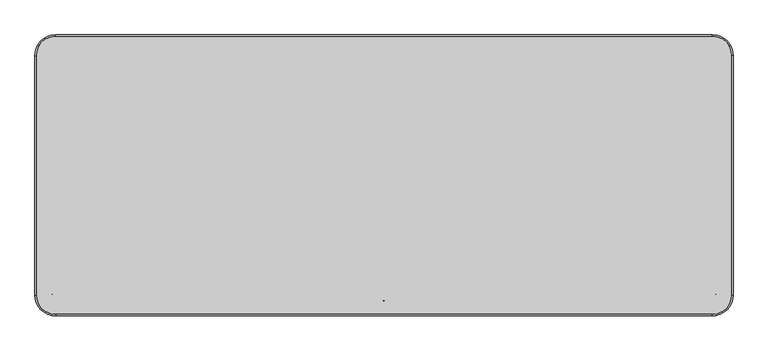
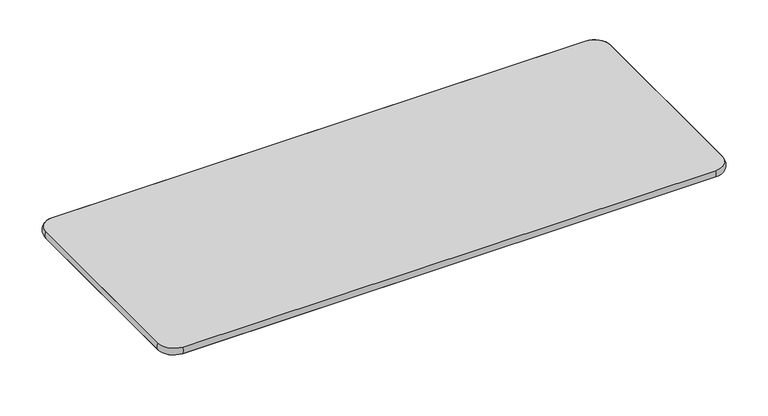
"""IFC4 building model written with IfcOpenShell, lengths in millimetres: furniture geometry, Mesa para refeitório : Mesa para refeitório 150x60cm cód 70471.4."""

import ifcopenshell
import ifcopenshell.guid

model = None  # the IFC model being written
_history = None  # IfcOwnerHistory: only IFC2X3 demands one
_inside = {}  # id of a spatial element -> (the spatial element, [elements in it])
_under = {}  # id of a project, library or spatial element -> (it, [spatial elements below it])
_declared = {}  # id of a project -> (the project, [libraries it declares])
_typed = {}  # id of a type object -> (the type object, [elements of that type])
_made_of = {}  # id of a material, layer set ... -> (it, [elements and type objects made of it])


def new_model(schema):
    """Start an empty IFC model of exactly this schema.

    Asked for "IFC4X3", IfcOpenShell would pick the latest addendum, in which some entities
    have other attributes; the version numbers below select the first issue.
    IFC2X3 requires an IfcOwnerHistory on every rooted entity: one is made here for all.
    """
    global model, _history
    if schema == "IFC4X3":
        model = ifcopenshell.file(schema_version=(4, 3, 0, 0))
    else:
        model = ifcopenshell.file(schema=schema)
    _inside.clear()
    _under.clear()
    _declared.clear()
    _typed.clear()
    _made_of.clear()
    _history = None
    if model.schema == "IFC2X3":
        org = make("IfcOrganization", Name="unknown")
        user = make(
            "IfcPersonAndOrganization",
            ThePerson=make("IfcPerson", FamilyName="unknown"),
            TheOrganization=org,
        )
        app = make(
            "IfcApplication",
            ApplicationDeveloper=org,
            Version="unknown",
            ApplicationFullName="unknown",
            ApplicationIdentifier="unknown",
        )
        _history = make(
            "IfcOwnerHistory",
            OwningUser=user,
            OwningApplication=app,
            ChangeAction="ADDED",
            CreationDate=0,
        )
    return model


def make(cls, **values):
    """One entity of the class cls with the attributes given. An attribute that is None is left unset."""
    return model.create_entity(
        cls, **{name: value for name, value in values.items() if value is not None}
    )


def rooted(cls, **values):
    """An entity with a GlobalId (a new one), such as an element, a storey or a relation."""
    return make(cls, GlobalId=ifcopenshell.guid.new(), OwnerHistory=_history, **values)


def si_unit(unit_type, name, prefix=None):
    """IfcSIUnit, for example si_unit("LENGTHUNIT", "METRE", prefix="MILLI")."""
    return make("IfcSIUnit", UnitType=unit_type, Prefix=prefix, Name=name)


def assignment(units):
    """IfcUnitAssignment: the units of a project."""
    return None if units is None else make("IfcUnitAssignment", Units=units)


def point(xyz):
    """IfcCartesianPoint."""
    return None if xyz is None else make("IfcCartesianPoint", Coordinates=xyz)


def direction(xyz):
    """IfcDirection."""
    return None if xyz is None else make("IfcDirection", DirectionRatios=xyz)


def frame(location, z_axis=None, x_axis=None):
    """IfcAxis2Placement3D, a coordinate frame: its origin and axes. An axis left out is left unset."""
    return make(
        "IfcAxis2Placement3D",
        Location=point(location),
        Axis=direction(z_axis),
        RefDirection=direction(x_axis),
    )


def frame_2d(location, x_axis=None):
    """IfcAxis2Placement2D, a coordinate frame in the plane: its origin and x axis."""
    return make(
        "IfcAxis2Placement2D", Location=point(location), RefDirection=direction(x_axis)
    )


def origin():
    """The frame at (0, 0, 0) with its axes left unset."""
    return frame((0.0, 0.0, 0.0))


def place(relative_to, where):
    """IfcLocalPlacement: puts the frame where relative to a parent placement (None: the world)."""
    return make(
        "IfcLocalPlacement", PlacementRelTo=relative_to, RelativePlacement=where
    )


def context(
    kind, dimensions, precision=None, world=None, true_north=None, identifier=None
):
    """IfcGeometricRepresentationContext, for example the 3D "Model" context."""
    return make(
        "IfcGeometricRepresentationContext",
        ContextIdentifier=identifier,
        ContextType=kind,
        CoordinateSpaceDimension=dimensions,
        Precision=precision,
        WorldCoordinateSystem=world,
        TrueNorth=true_north,
    )


def project(units=None, contexts=None):
    """IfcProject with its units and contexts."""
    return rooted(
        "IfcProject",
        Name="project",
        RepresentationContexts=contexts,
        UnitsInContext=assignment(units),
    )


def spatial(cls, under=None, at=None, **own):
    """A site, building, storey or space (cls), placed at a placement, below another one or the project."""
    s = rooted(cls, ObjectPlacement=at, **own)
    if under is not None:
        _under.setdefault(under.id(), (under, []))[1].append(s)
    return s


def polyline(points):
    """IfcPolyline through the points."""
    return make("IfcPolyline", Points=[point(p) for p in points])


def circle_curve(where, radius):
    """IfcCircle in the frame where."""
    return make("IfcCircle", Position=where, Radius=radius)


def ellipse_curve(where, semi_axis1, semi_axis2):
    """IfcEllipse in the frame where."""
    return make(
        "IfcEllipse", Position=where, SemiAxis1=semi_axis1, SemiAxis2=semi_axis2
    )


def trimmed(basis, trim1, trim2, sense, master):
    """IfcTrimmedCurve: the piece of a basis curve between two trims."""
    return make(
        "IfcTrimmedCurve",
        BasisCurve=basis,
        Trim1=trim1,
        Trim2=trim2,
        SenseAgreement=sense,
        MasterRepresentation=master,
    )


def segment(curve, same_sense, transition):
    """IfcCompositeCurveSegment."""
    return make(
        "IfcCompositeCurveSegment",
        Transition=transition,
        SameSense=same_sense,
        ParentCurve=curve,
    )


def composite_curve(segments, self_intersect=None):
    """IfcCompositeCurve: segments joined end to end."""
    return make("IfcCompositeCurve", Segments=segments, SelfIntersect=self_intersect)


def outline(outer, holes=None, kind="AREA"):
    """IfcArbitraryClosedProfileDef: a profile drawn as a closed curve; with holes, ...WithVoids."""
    if holes is None:
        return make("IfcArbitraryClosedProfileDef", ProfileType=kind, OuterCurve=outer)
    return make(
        "IfcArbitraryProfileDefWithVoids",
        ProfileType=kind,
        OuterCurve=outer,
        InnerCurves=holes,
    )


def extrude(swept, where, along, depth):
    """IfcExtrudedAreaSolid: the profile swept, set in the frame where, extruded along a direction by depth."""
    return make(
        "IfcExtrudedAreaSolid",
        SweptArea=swept,
        Position=where,
        ExtrudedDirection=direction(along),
        Depth=depth,
    )


def shape(context_of_items, identifier, shape_type, items):
    """IfcShapeRepresentation: the items that make up one representation, for example the "Body"."""
    return make(
        "IfcShapeRepresentation",
        ContextOfItems=context_of_items,
        RepresentationIdentifier=identifier,
        RepresentationType=shape_type,
        Items=items,
    )


def source(mapping_origin, context_of_items, identifier, shape_type, items):
    """IfcRepresentationMap: a shape defined once, which mapped items show again and again."""
    return make(
        "IfcRepresentationMap",
        MappingOrigin=mapping_origin,
        MappedRepresentation=shape(context_of_items, identifier, shape_type, items),
    )


def transform(
    local_origin,
    x_axis=None,
    y_axis=None,
    z_axis=None,
    scale=None,
    scale2=None,
    scale3=None,
    uniform=True,
):
    """IfcCartesianTransformationOperator3D, or its non-uniform kind. x_axis, y_axis, z_axis: its Axis1, 2, 3."""
    if uniform:
        return make(
            "IfcCartesianTransformationOperator3D",
            Axis1=direction(x_axis),
            Axis2=direction(y_axis),
            LocalOrigin=point(local_origin),
            Scale=scale,
            Axis3=direction(z_axis),
        )
    return make(
        "IfcCartesianTransformationOperator3DnonUniform",
        Axis1=direction(x_axis),
        Axis2=direction(y_axis),
        LocalOrigin=point(local_origin),
        Scale=scale,
        Axis3=direction(z_axis),
        Scale2=scale2,
        Scale3=scale3,
    )


def mapped(mapping_source, mapping_target):
    """IfcMappedItem: shows the shape of a source again, moved by a transform."""
    return make(
        "IfcMappedItem", MappingSource=mapping_source, MappingTarget=mapping_target
    )


def made_of(thing, what):
    """Note that an element or type object is made of a material, layer set ...; save() writes the relation."""
    if what is not None:
        _made_of.setdefault(what.id(), (what, []))[1].append(thing)
    return thing


def element(
    cls,
    number,
    at=None,
    inside=None,
    cuts=None,
    type_object=None,
    material=None,
    context=None,
    identifier="Body",
    shape_type=None,
    held_by="IfcProductDefinitionShape",
    body=None,
    shapes=None,
    **own,
):
    """One element of the class cls, such as IfcWall. Its Tag is "e" and its number.

    at: its placement. inside: the storey or other place that contains it. cuts: it is an
    opening in that element (IfcRelVoidsElement). A single representation is given by context,
    identifier, shape_type and body (its items); several are given by shapes. held_by: the class
    of the entity that holds the representations. save() writes the other relations.
    """
    e = rooted(cls, Tag="e%d" % number, ObjectPlacement=at, **own)
    if body is not None:
        shapes = [shape(context, identifier, shape_type, body)]
    if shapes is not None:
        e.Representation = make(held_by, Representations=shapes)
    if inside is not None:
        _inside.setdefault(inside.id(), (inside, []))[1].append(e)
    if cuts is not None:
        rooted(
            "IfcRelVoidsElement", RelatingBuildingElement=cuts, RelatedOpeningElement=e
        )
    if type_object is not None:
        _typed.setdefault(type_object.id(), (type_object, []))[1].append(e)
    return made_of(e, material)


def aggregate(whole, parts):
    """IfcRelAggregates: a whole, such as a stair, and the parts it consists of."""
    return rooted("IfcRelAggregates", RelatingObject=whole, RelatedObjects=parts)


def save(model, path):
    """Write the relations noted so far, then the file.

    IfcRelAggregates (storeys below a building ...), IfcRelContainedInSpatialStructure (elements
    in a storey), IfcRelDefinesByType, IfcRelAssociatesMaterial and IfcRelDeclares: one each for
    every whole, place, type object, material and project.
    """
    for whole, parts in _under.values():
        aggregate(whole, parts)
    for where, things in _inside.values():
        rooted(
            "IfcRelContainedInSpatialStructure",
            RelatedElements=things,
            RelatingStructure=where,
        )
    for kind, things in _typed.values():
        rooted("IfcRelDefinesByType", RelatedObjects=things, RelatingType=kind)
    for what, things in _made_of.values():
        rooted("IfcRelAssociatesMaterial", RelatedObjects=things, RelatingMaterial=what)
    for by, libraries in _declared.values():
        rooted("IfcRelDeclares", RelatingContext=by, RelatedDefinitions=libraries)
    model.write(path)


def plane_surface(at):
    """IfcPlane: the flat surface through the origin of the frame at, square to its z axis."""
    return make("IfcPlane", Position=at)


def cylinder_surface(at, radius):
    """IfcCylindricalSurface: all points at the distance radius from the z axis of the frame at."""
    return make("IfcCylindricalSurface", Position=at, Radius=radius)


def revolved_surface(curve, axis_point, axis_direction):
    """IfcSurfaceOfRevolution: the curve turned about the line through axis_point along axis_direction."""
    return make(
        "IfcSurfaceOfRevolution",
        SweptCurve=make("IfcArbitraryOpenProfileDef", ProfileType="CURVE", Curve=curve),
        AxisPosition=make("IfcAxis1Placement", Location=point(axis_point), Axis=direction(axis_direction)),
    )


def advanced_brep(points, edges, surfaces, faces):
    """IfcAdvancedBrep: a solid bounded by faces that lie on surfaces and meet in shared edges.

    An edge is (start, end): straight between two places in points (the first is 0);
    or (start, end, curve); or (start, end, curve, False) where it runs against its curve.
    A face is (place in surfaces, loops), or (place, loops, False) where it looks against
    its surface's normal. A loop lists edges by number (the first is 1), with a minus sign
    where the edge is run from its end to its start. The first loop is the outer one.
    """
    corners = [point(p) for p in points]
    vertices = [make("IfcVertexPoint", VertexGeometry=c) for c in corners]
    made = []
    for start, end, *more in edges:
        made.append(
            make(
                "IfcEdgeCurve",
                EdgeStart=vertices[start],
                EdgeEnd=vertices[end],
                EdgeGeometry=more[0] if more else make("IfcPolyline", Points=[corners[start], corners[end]]),
                SameSense=more[1] if len(more) > 1 else True,
            )
        )
    hull = []
    for where, loops, *sense in faces:
        bounds = []
        for j, loop in enumerate(loops):
            ring = [make("IfcOrientedEdge", EdgeElement=made[abs(k) - 1], Orientation=k > 0) for k in loop]
            bounds.append(
                make(
                    "IfcFaceOuterBound" if j == 0 else "IfcFaceBound",
                    Bound=make("IfcEdgeLoop", EdgeList=ring),
                    Orientation=True,
                )
            )
        hull.append(make("IfcAdvancedFace", Bounds=bounds, FaceSurface=surfaces[where], SameSense=sense[0] if sense else True))
    return make("IfcAdvancedBrep", Outer=make("IfcClosedShell", CfsFaces=hull))


def furniture_99233190(model_context):
    return source(origin(), model_context, "Body", "SolidModel", [
        extrude(outline(composite_curve([segment(polyline([(-655.6618953, -42.5875081), (-717.0206397, -256.5708799), (-729.5170418, -252.9875943)]), True, "CONTINUOUS"), segment(trimmed(circle_curve(frame_2d((-728.138855, -248.1812858)), 5.0), [point((-729.5170418, -252.9875943))], [point((-732.9451635, -246.803099))], False, "CARTESIAN"), True, "CONTINUOUS"), segment(polyline([(-732.9451635, -246.803099), (-674.3872851, -42.5875081), (-655.6618953, -42.5875081)]), True, "CONTINUOUS")], self_intersect=False)), frame((0.0, 0.0, 620.0), z_axis=(0.0, 0.0, 1.0), x_axis=(1.0, 0.0, 0.0)), (0.0, 0.0, 1.0), 2.0),
        extrude(outline(composite_curve([segment(polyline([(655.6618953, 42.5875081), (717.0206397, 256.5708799), (729.5170418, 252.9875943)]), True, "CONTINUOUS"), segment(trimmed(circle_curve(frame_2d((728.138855, 248.1812858)), 5.0), [point((729.5170418, 252.9875943))], [point((732.9451635, 246.803099))], False, "CARTESIAN"), True, "CONTINUOUS"), segment(polyline([(732.9451635, 246.803099), (674.3872851, 42.5875081), (655.6618953, 42.5875081)]), True, "CONTINUOUS")], self_intersect=False)), frame((0.0, 0.0, 620.0), z_axis=(0.0, 0.0, 1.0), x_axis=(1.0, 0.0, 0.0)), (0.0, 0.0, 1.0), 2.0),
        extrude(outline(composite_curve([segment(polyline([(655.6618953, -42.5875081), (674.3872851, -42.5875081), (732.9451635, -246.803099)]), True, "CONTINUOUS"), segment(trimmed(circle_curve(frame_2d((728.138855, -248.1812858)), 5.0), [point((732.9451635, -246.803099))], [point((729.5170418, -252.9875943))], False, "CARTESIAN"), True, "CONTINUOUS"), segment(polyline([(729.5170418, -252.9875943), (717.0206397, -256.5708799), (655.6618953, -42.5875081)]), True, "CONTINUOUS")], self_intersect=False)), frame((0.0, 0.0, 620.0), z_axis=(0.0, 0.0, 1.0), x_axis=(1.0, 0.0, 0.0)), (0.0, 0.0, 1.0), 2.0),
        extrude(outline(composite_curve([segment(polyline([(655.6618953, -42.5875081), (673.7270534, -42.5875081), (673.7270534, -140.8530223)]), True, "CONTINUOUS"), segment(trimmed(circle_curve(frame_2d((668.7270534, -140.8530223)), 5.0), [point((673.7270534, -140.8530223))], [point((668.7270534, -145.8530223))], False, "CARTESIAN"), True, "CONTINUOUS"), segment(polyline([(668.7270534, -145.8530223), (655.6618953, -145.8530223), (655.6618953, -42.5875081)]), True, "CONTINUOUS")], self_intersect=False)), frame((0.0, 0.0, 620.0), z_axis=(0.0, 0.0, 1.0), x_axis=(1.0, 0.0, 0.0)), (0.0, 0.0, 1.0), 2.0),
        extrude(outline(polyline([(-649.6955742, 28.681337), (-649.6955742, -28.681337), (-651.5529394, -28.1300623), (-651.5529394, 28.1300623), (-649.6955742, 28.681337)])), frame((0.0, 0.0, 562.0), z_axis=(0.0, 0.0, 1.0), x_axis=(1.0, 0.0, 0.0)), (0.0, 0.0, 1.0), 60.0),
        extrude(outline(composite_curve([segment(polyline([(-60.1181829, 0.0), (0.0, 0.0), (0.0, -229.4943371)]), True, "CONTINUOUS"), segment(trimmed(circle_curve(frame_2d((-8.0489664, -229.4943371)), 8.0489664), [point((0.0, -229.4943371))], [point((-15.3438074, -232.8959773))], False, "CARTESIAN"), True, "CONTINUOUS"), segment(polyline([(-15.3438074, -232.8959773), (-60.1181829, 0.0)]), True, "CONTINUOUS")], self_intersect=False)), frame((-649.6955742, -28.681337, 622.0), z_axis=(-0.961261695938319, 0.2756373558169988, 0.0), x_axis=(0.0, 0.0, 1.0)), (0.0, 0.0, 1.0), 1.932216),
        extrude(outline(composite_curve([segment(polyline([(60.1181829, 0.0), (15.3438074, -232.8959773)]), True, "CONTINUOUS"), segment(trimmed(circle_curve(frame_2d((8.0489664, -229.4943371)), 8.0489664), [point((15.3438074, -232.8959773))], [point((0.0, -229.4943371))], False, "CARTESIAN"), True, "CONTINUOUS"), segment(polyline([(0.0, -229.4943371), (0.0, 0.0), (60.1181829, 0.0)]), True, "CONTINUOUS")], self_intersect=False)), frame((651.5162894, 28.1300623, 622.0), z_axis=(-0.961261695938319, 0.2756373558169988, 0.0), x_axis=(0.0, 0.0, -1.0)), (0.0, 0.0, 1.0), 2.0),
        extrude(outline(polyline([(649.593766, 28.681337), (651.5162894, 28.1300623), (651.5162894, -28.1300623), (649.593766, -28.681337), (649.593766, 28.681337)])), frame((0.0, 0.0, 562.0), z_axis=(0.0, 0.0, 1.0), x_axis=(1.0, 0.0, 0.0)), (0.0, 0.0, 1.0), 60.0),
        extrude(outline(composite_curve([segment(polyline([(-2.0, -20.0), (-2.0, -266.247878), (-15.0, -266.247878)]), True, "CONTINUOUS"), segment(trimmed(circle_curve(frame_2d((-15.0, -261.247878)), 5.0), [point((-15.0, -266.247878))], [point((-20.0, -261.247878))], False, "CARTESIAN"), True, "CONTINUOUS"), segment(polyline([(-20.0, -261.247878), (-20.0, -20.0), (-2.0, -20.0)]), True, "CONTINUOUS")], self_intersect=False)), frame((0.0, 0.0, 620.0), z_axis=(0.0, 0.0, 1.0), x_axis=(1.0, 0.0, 0.0)), (0.0, 0.0, 1.0), 2.0),
        extrude(outline(composite_curve([segment(polyline([(-20.0, 563.2373612), (-266.247878, 606.6561926)]), True, "CONTINUOUS"), segment(trimmed(circle_curve(frame_2d((-262.8462378, 613.9510336)), 8.0489664), [point((-266.247878, 606.6561926))], [point((-262.8462378, 622.0))], False, "CARTESIAN"), True, "CONTINUOUS"), segment(polyline([(-262.8462378, 622.0), (-20.0, 622.0), (-20.0, 563.2373612)]), True, "CONTINUOUS")], self_intersect=False)), frame((-2.0, 0.0, 0.0), z_axis=(1.0, 0.0, 0.0), x_axis=(0.0, 1.0, 0.0)), (0.0, 0.0, 1.0), 2.0),
        extrude(outline(composite_curve([segment(polyline([(0.0, 0.0), (237.1608757, 0.0)]), True, "CONTINUOUS"), segment(trimmed(circle_curve(frame_2d((235.1976245, -7.8058636)), 8.0489664), [point((237.1608757, 0.0))], [point((236.7172151, -15.7100843))], False, "CARTESIAN"), True, "CONTINUOUS"), segment(polyline([(236.7172151, -15.7100843), (11.3499079, -59.0370689), (0.0, 0.0)]), True, "CONTINUOUS")], self_intersect=False)), frame((649.593766, -28.681337, 561.8818171), z_axis=(0.961261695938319, 0.2756373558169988, 0.0), x_axis=(0.27068052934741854, -0.9439751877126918, 0.1887932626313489)), (0.0, 0.0, 1.0), 2.0),
        extrude(outline(composite_curve([segment(polyline([(-2.0, 20.0), (-20.0, 20.0), (-20.0, 261.247878)]), True, "CONTINUOUS"), segment(trimmed(circle_curve(frame_2d((-15.0, 261.247878)), 5.0), [point((-20.0, 261.247878))], [point((-15.0, 266.247878))], False, "CARTESIAN"), True, "CONTINUOUS"), segment(polyline([(-15.0, 266.247878), (-2.0, 266.247878), (-2.0, 20.0)]), True, "CONTINUOUS")], self_intersect=False)), frame((0.0, 0.0, 620.0), z_axis=(0.0, 0.0, 1.0), x_axis=(1.0, 0.0, 0.0)), (0.0, 0.0, 1.0), 2.0),
        extrude(outline(composite_curve([segment(polyline([(20.0, 563.2373612), (20.0, 622.0), (262.8462378, 622.0)]), True, "CONTINUOUS"), segment(trimmed(circle_curve(frame_2d((262.8462378, 613.9510336)), 8.0489664), [point((262.8462378, 622.0))], [point((266.247878, 606.6561926))], False, "CARTESIAN"), True, "CONTINUOUS"), segment(polyline([(266.247878, 606.6561926), (20.0, 563.2373612)]), True, "CONTINUOUS")], self_intersect=False)), frame((-2.0, 0.0, 0.0), z_axis=(1.0, 0.0, 0.0), x_axis=(0.0, 1.0, 0.0)), (0.0, 0.0, 1.0), 2.0),
        extrude(outline(polyline([(650.0651581, -20.0), (-650.0651581, -20.0), (-650.0651581, 20.0), (650.0651581, 20.0), (650.0651581, -20.0)])), frame((0.0, 0.0, 562.0), z_axis=(0.0, 0.0, 1.0), x_axis=(1.0, 0.0, 0.0)), (0.0, 0.0, 1.0), 60.0),
        advanced_brep(
        [(750.0, -258.1259063, 640.0), (708.1259063, -300.0, 640.0), (708.1259063, -300.0, 622.0), (750.0, -258.1259063, 622.0), (750.0, 258.1259063, 622.0), (750.0, 258.1259063, 640.0), (708.1259063, 300.0, 640.0), (708.1259063, 300.0, 622.0), (-708.2277145, 300.0, 622.0), (-708.2277145, 300.0, 640.0), (-750.0, 258.2277145, 640.0), (-750.0, 258.2277145, 622.0), (-750.0, -258.2277145, 622.0), (-750.0, -258.2277145, 640.0), (-708.2277145, -300.0, 640.0), (-708.2277145, -300.0, 622.0)],
        [
            (0, 1, circle_curve(frame((708.1259063, -258.1259063, 640.0), z_axis=(0.0, 0.0, -1.0), x_axis=(0.0, -1.0, 0.0)), 41.8740937)),
            (1, 2, circle_curve(frame((708.1259063, -286.6032084, 631.0), z_axis=(1.0, 0.0, 0.0), x_axis=(0.0, 1.0, 0.0)), 16.1392077)),
            (2, 3, circle_curve(frame((708.1259063, -258.1259063, 622.0), z_axis=(0.0, 0.0, 1.0), x_axis=(0.0, -1.0, 0.0)), 41.8740937)),
            (3, 0, circle_curve(frame((736.6032084, -258.1259063, 631.0), z_axis=(0.0, -1.0, 0.0), x_axis=(-1.0, 0.0, 0.0)), 16.1392077)),
            (2, 1),
            (0, 3),
            (3, 4),
            (4, 5, circle_curve(frame((736.6032084, 258.1259063, 631.0), z_axis=(0.0, -1.0, 0.0), x_axis=(-1.0, 0.0, 0.0)), 16.1392077)),
            (5, 0),
            (5, 4),
            (6, 5, circle_curve(frame((708.1259063, 258.1259063, 640.0), z_axis=(0.0, 0.0, -1.0), x_axis=(1.0, 0.0, 0.0)), 41.8740937)),
            (4, 7, circle_curve(frame((708.1259063, 258.1259063, 622.0), z_axis=(0.0, 0.0, 1.0), x_axis=(1.0, 0.0, 0.0)), 41.8740937)),
            (7, 6, circle_curve(frame((708.1259063, 286.6032084, 631.0), z_axis=(1.0, 0.0, 0.0), x_axis=(0.0, -1.0, 0.0)), 16.1392077)),
            (6, 7),
            (7, 8),
            (8, 9, circle_curve(frame((-708.2277145, 286.6032084, 631.0), z_axis=(1.0, 0.0, 0.0), x_axis=(0.0, -1.0, 0.0)), 16.1392077)),
            (9, 6),
            (9, 8),
            (10, 9, circle_curve(frame((-708.2277145, 258.2277145, 640.0), z_axis=(0.0, 0.0, -1.0), x_axis=(0.0, 1.0, 0.0)), 41.7722855)),
            (8, 11, circle_curve(frame((-708.2277145, 258.2277145, 622.0), z_axis=(0.0, 0.0, 1.0), x_axis=(0.0, 1.0, 0.0)), 41.7722855)),
            (11, 10, circle_curve(frame((-736.6032084, 258.2277145, 631.0), z_axis=(0.0, 1.0, 0.0), x_axis=(1.0, 0.0, 0.0)), 16.1392077)),
            (10, 11),
            (11, 12),
            (12, 13, circle_curve(frame((-736.6032084, -258.2277145, 631.0), z_axis=(0.0, 1.0, 0.0), x_axis=(1.0, 0.0, 0.0)), 16.1392077)),
            (13, 10),
            (13, 12),
            (14, 13, circle_curve(frame((-708.2277145, -258.2277145, 640.0), z_axis=(0.0, 0.0, -1.0), x_axis=(-1.0, 0.0, 0.0)), 41.7722855)),
            (12, 15, circle_curve(frame((-708.2277145, -258.2277145, 622.0), z_axis=(0.0, 0.0, 1.0), x_axis=(-1.0, 0.0, 0.0)), 41.7722855)),
            (15, 14, circle_curve(frame((-708.2277145, -286.6032084, 631.0), z_axis=(-1.0, 0.0, 0.0), x_axis=(0.0, 1.0, 0.0)), 16.1392077)),
            (14, 15),
            (15, 2),
            (1, 14),
        ],
        [
            revolved_surface(trimmed(ellipse_curve(frame((708.1259063, -286.6032084, 631.0), z_axis=(-1.0, 0.0, 0.0), x_axis=(0.0, 1.0, 0.0)), 16.1392077, 16.1392077), [point((708.1259063, -300.0, 622.0))], [point((708.1259063, -300.0, 640.0))], True, "CARTESIAN"), (708.1259063, -258.1259063, 640.0), (0.0, 0.0, 1.0)),
            revolved_surface(polyline([(708.1259063, -300.0, 640.0), (708.1259063, -300.0, 622.0)]), (708.1259063, -258.1259063, 640.0), (0.0, 0.0, 1.0)),
            cylinder_surface(frame((736.6032084, -258.1259063, 631.0), z_axis=(0.0, -1.0, 0.0), x_axis=(-1.0, 0.0, 0.0)), 16.1392077),
            plane_surface(frame((750.0, -258.1259063, 640.0), z_axis=(-1.0, 0.0, 0.0), x_axis=(0.0, 1.0, 0.0))),
            revolved_surface(trimmed(ellipse_curve(frame((736.6032084, 258.1259063, 631.0), z_axis=(0.0, -1.0, 0.0), x_axis=(-1.0, 0.0, 0.0)), 16.1392077, 16.1392077), [point((750.0, 258.1259063, 622.0))], [point((750.0, 258.1259063, 640.0))], True, "CARTESIAN"), (708.1259063, 258.1259063, 640.0), (0.0, 0.0, 1.0)),
            revolved_surface(polyline([(750.0, 258.1259063, 640.0), (750.0, 258.1259063, 622.0)]), (708.1259063, 258.1259063, 640.0), (0.0, 0.0, 1.0)),
            cylinder_surface(frame((708.1259063, 286.6032084, 631.0), z_axis=(1.0, 0.0, 0.0), x_axis=(0.0, -1.0, 0.0)), 16.1392077),
            plane_surface(frame((708.1259063, 300.0, 640.0), z_axis=(0.0, -1.0, 0.0), x_axis=(-1.0, 0.0, 0.0))),
            revolved_surface(trimmed(ellipse_curve(frame((-708.2277145, 286.6032084, 631.0), z_axis=(1.0, 0.0, 0.0), x_axis=(0.0, -1.0, 0.0)), 16.1392077, 16.1392077), [point((-708.2277145, 300.0, 622.0))], [point((-708.2277145, 300.0, 640.0))], True, "CARTESIAN"), (-708.2277145, 258.2277145, 640.0), (0.0, 0.0, 1.0)),
            revolved_surface(polyline([(-708.2277145, 300.0, 640.0), (-708.2277145, 300.0, 622.0)]), (-708.2277145, 258.2277145, 640.0), (0.0, 0.0, 1.0)),
            cylinder_surface(frame((-736.6032084, 258.2277145, 631.0), z_axis=(0.0, 1.0, 0.0), x_axis=(1.0, 0.0, 0.0)), 16.1392077),
            plane_surface(frame((-750.0, 258.2277145, 640.0), z_axis=(1.0, 0.0, 0.0), x_axis=(0.0, -1.0, 0.0))),
            revolved_surface(trimmed(ellipse_curve(frame((-736.6032084, -258.2277145, 631.0), z_axis=(0.0, 1.0, 0.0), x_axis=(1.0, 0.0, 0.0)), 16.1392077, 16.1392077), [point((-750.0, -258.2277145, 622.0))], [point((-750.0, -258.2277145, 640.0))], True, "CARTESIAN"), (-708.2277145, -258.2277145, 640.0), (0.0, 0.0, 1.0)),
            revolved_surface(polyline([(-750.0, -258.2277145, 640.0), (-750.0, -258.2277145, 622.0)]), (-708.2277145, -258.2277145, 640.0), (0.0, 0.0, 1.0)),
            cylinder_surface(frame((-708.2277145, -286.6032084, 631.0), z_axis=(-1.0, 0.0, 0.0), x_axis=(0.0, 1.0, 0.0)), 16.1392077),
            plane_surface(frame((-708.2277145, -300.0, 640.0), z_axis=(0.0, 1.0, 0.0), x_axis=(1.0, 0.0, 0.0))),
        ],
        [
            (0, [[1, 2, 3, 4]]),
            (1, [[-3, 5, -1, 6]]),
            (2, [[-4, 7, 8, 9]]),
            (3, [[-6, -9, 10, -7]]),
            (4, [[11, -8, 12, 13]]),
            (5, [[-12, -10, -11, 14]]),
            (6, [[-13, 15, 16, 17]]),
            (7, [[-14, -17, 18, -15]]),
            (8, [[19, -16, 20, 21]]),
            (9, [[-20, -18, -19, 22]]),
            (10, [[-21, 23, 24, 25]]),
            (11, [[-22, -25, 26, -23]]),
            (12, [[27, -24, 28, 29]]),
            (13, [[-28, -26, -27, 30]]),
            (14, [[-29, 31, -2, 32]]),
            (15, [[-30, -32, -5, -31]]),
        ],
    ),
        extrude(outline(composite_curve([segment(trimmed(circle_curve(frame_2d((708.1259063, 258.1259063)), 41.8740937), [point((708.1259063, 300.0))], [point((750.0, 258.1259063))], False, "CARTESIAN"), True, "CONTINUOUS"), segment(polyline([(750.0, 258.1259063), (750.0, -258.1259063)]), True, "CONTINUOUS"), segment(trimmed(circle_curve(frame_2d((708.1259063, -258.1259063)), 41.8740937), [point((750.0, -258.1259063))], [point((708.1259063, -300.0))], False, "CARTESIAN"), True, "CONTINUOUS"), segment(polyline([(708.1259063, -300.0), (-708.2277145, -300.0)]), True, "CONTINUOUS"), segment(trimmed(circle_curve(frame_2d((-708.2277145, -258.2277145)), 41.7722855), [point((-708.2277145, -300.0))], [point((-750.0, -258.2277145))], False, "CARTESIAN"), True, "CONTINUOUS"), segment(polyline([(-750.0, -258.2277145), (-750.0, 258.2277145)]), True, "CONTINUOUS"), segment(trimmed(circle_curve(frame_2d((-708.2277145, 258.2277145)), 41.7722855), [point((-750.0, 258.2277145))], [point((-708.2277145, 300.0))], False, "CARTESIAN"), True, "CONTINUOUS"), segment(polyline([(-708.2277145, 300.0), (708.1259063, 300.0)]), True, "CONTINUOUS")], self_intersect=False)), frame((0.0, 0.0, 622.0), z_axis=(0.0, 0.0, 1.0), x_axis=(1.0, 0.0, 0.0)), (0.0, 0.0, 1.0), 18.0),
    ])


if __name__ == "__main__":
    model = new_model("IFC4")
    model_context = context("Model", 3, world=origin())
    ifc_project = project(units=[si_unit("LENGTHUNIT", "METRE", prefix="MILLI")], contexts=[model_context])
    site = spatial("IfcSite", under=ifc_project)
    building = spatial("IfcBuilding", under=site)
    placement = place(None, origin())
    furniture_shape = furniture_99233190(model_context)
    element("IfcFurniture", 1, ObjectType="Mesa para refeitório : Mesa para refeitório 150x60cm cód 70471.4", at=placement, inside=building, context=model_context, shape_type="MappedRepresentation", body=[
        mapped(furniture_shape, transform((0.0, 0.0, 0.0), x_axis=(1.0, 0.0, 0.0), y_axis=(0.0, 1.0, 0.0), z_axis=(0.0, 0.0, 1.0))),
    ])
    save(model, "model.ifc")
